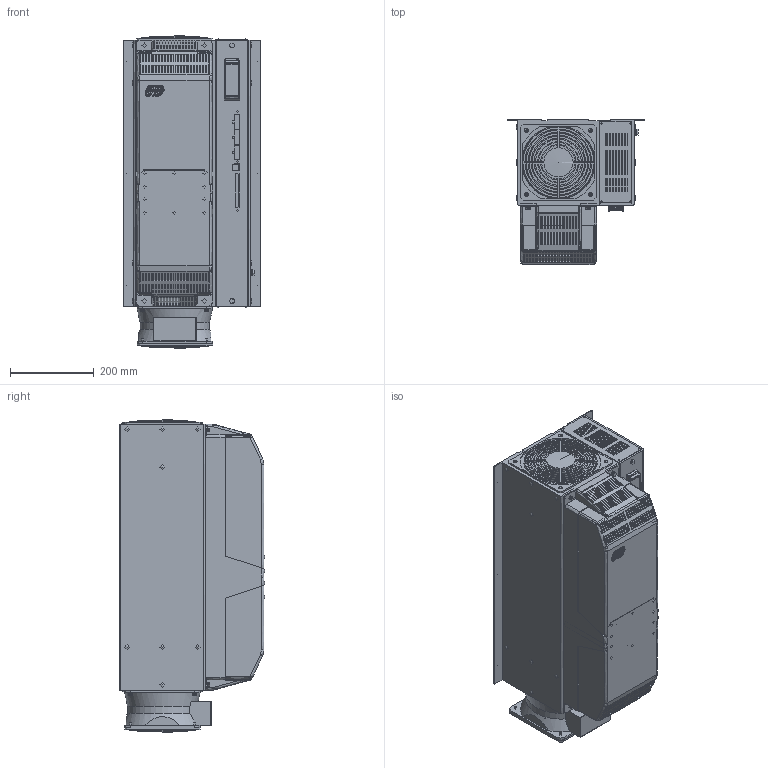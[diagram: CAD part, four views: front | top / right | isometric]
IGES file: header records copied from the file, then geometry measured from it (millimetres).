
Global section: file name: SR21; native system: AutoCAD 2015 - Italiano (Italian); preprocessor: Autodesk Translation Framework DWG producer (atf_dwg_producer); organization: unknown; date: 20191106.125646; units: millimetre
Bounding box: 329 x 346.6 x 746 mm (x, y, z)
Volume: 51377093.1 mm3; surface area: 1690544.3 mm2
Topology: 2 solids, 19 shells, 4459 faces, 12540 edges, 8355 vertices
Faces by surface type: bspline 4459
